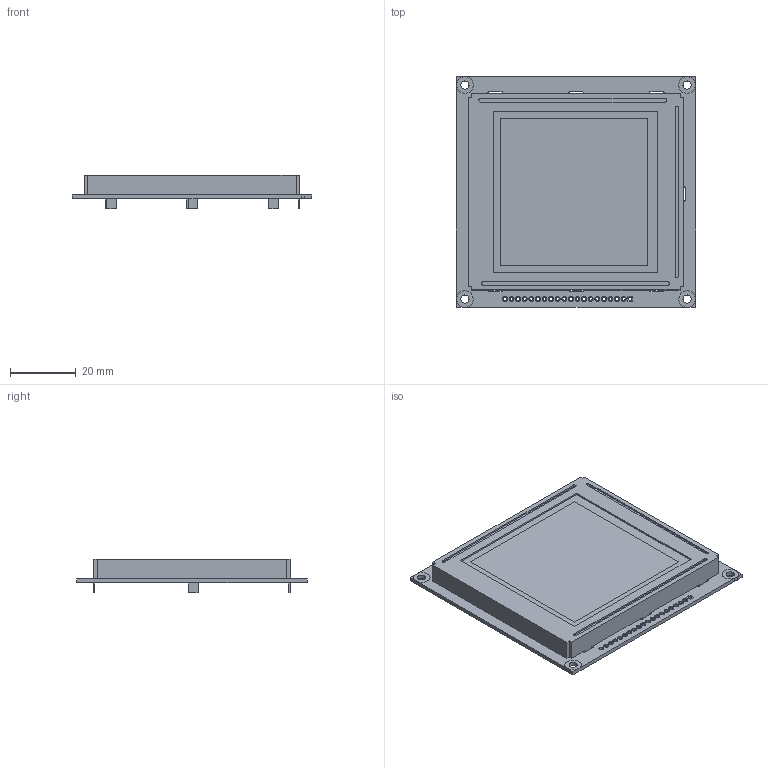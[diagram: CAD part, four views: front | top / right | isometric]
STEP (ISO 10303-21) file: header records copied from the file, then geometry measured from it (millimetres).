
FILE_DESCRIPTION (( 'STEP AP214' ), '1' );
FILE_NAME ('CFAG128128I1.STEP', '2022-05-02T21:28:50', ( '' ), ( '' ), 'SwSTEP 2.0', 'SolidWorks 2021', '' );
FILE_SCHEMA (( 'AUTOMOTIVE_DESIGN' ));
Length unit declared in the file: millimetre
Products named in the file (1): CFAG128128I1
Bounding box: 72.5 x 69.94 x 10.2 mm (x, y, z)
Volume: 27983.4 mm3; surface area: 12482.1 mm2
Topology: 1 solids, 1 shells, 222 faces, 588 edges, 411 vertices
Faces by surface type: plane 145, cylinder 77
Entity records: 8737 total; most frequent: DIRECTION 1287, CARTESIAN_POINT 1222, ORIENTED_EDGE 1176, EDGE_CURVE 588, AXIS2_PLACEMENT_3D 476, VERTEX_POINT 411, VECTOR 335, LINE 335
